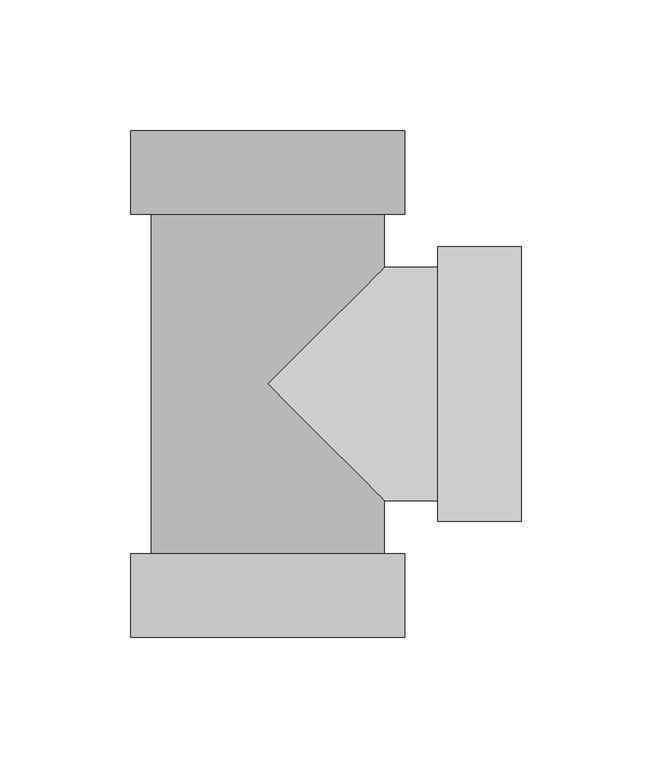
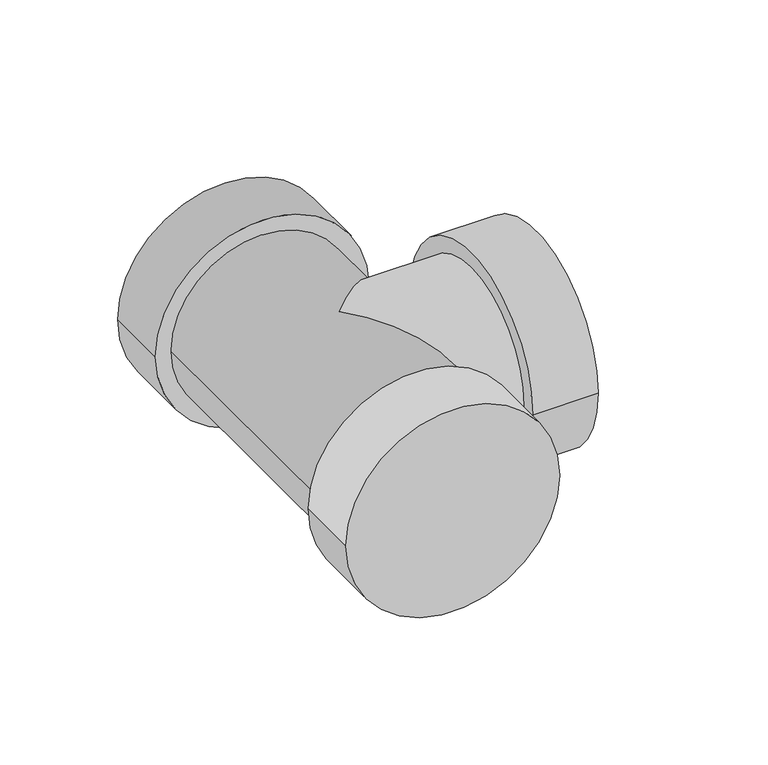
"""IFC4 building model written with IfcOpenShell, lengths in millimetres: pipe fitting geometry, 01011003 : Tés à 90º."""

from ifc_helpers import new_model, si_unit, point, frame, origin, origin_2d, place, context, project, spatial, circle_curve, ellipse_curve, trimmed, segment, composite_curve, outline, extrude, source, transform, mapped, element, save
from ifc_brep_helpers import plane_surface, cylinder_surface, advanced_brep


def pipe_fitting_6ab69682(model_context):
    return source(origin(), model_context, "Body", "SolidModel", [
        advanced_brep(
        [(-44.625, 67.0, 0.0), (44.625, 67.0, 0.0), (-44.625, -67.0, 0.0), (44.625, -67.0, 0.0), (44.625, -44.625, 0.0), (0.0, 0.0, 44.625), (44.625, 44.625, 0.0), (0.0, 0.0, -44.625), (67.0, 44.625, 0.0), (67.0, -44.625, 0.0)],
        [
            (0, 1, circle_curve(frame((0.0, 67.0, 0.0), z_axis=(0.0, 1.0, 0.0), x_axis=(1.0, 0.0, 0.0)), 44.625)),
            (1, 0, circle_curve(frame((0.0, 67.0, 0.0), z_axis=(0.0, 1.0, 0.0), x_axis=(1.0, 0.0, 0.0)), 44.625)),
            (2, 3, circle_curve(frame((0.0, -67.0, 0.0), z_axis=(0.0, -1.0, 0.0), x_axis=(1.0, 0.0, 0.0)), 44.625)),
            (3, 2, circle_curve(frame((0.0, -67.0, 0.0), z_axis=(0.0, -1.0, 0.0), x_axis=(1.0, 0.0, 0.0)), 44.625)),
            (0, 2),
            (3, 4),
            (4, 5, ellipse_curve(frame((0.0, 0.0, 0.0), z_axis=(-0.7071067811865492, -0.7071067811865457, 0.0), x_axis=(-0.7071067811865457, 0.7071067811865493, 0.0)), 63.1092802, 44.625)),
            (5, 6, ellipse_curve(frame((0.0, 0.0, 0.0), z_axis=(-0.7071067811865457, 0.7071067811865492, 0.0), x_axis=(0.7071067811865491, 0.7071067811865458, 0.0)), 63.1092802, 44.625)),
            (6, 1),
            (6, 7, ellipse_curve(frame((0.0, 0.0, 0.0), z_axis=(-0.7071067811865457, 0.7071067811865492, 0.0), x_axis=(0.7071067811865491, 0.7071067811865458, 0.0)), 63.1092802, 44.625)),
            (7, 4, ellipse_curve(frame((0.0, 0.0, 0.0), z_axis=(-0.7071067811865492, -0.7071067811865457, 0.0), x_axis=(-0.7071067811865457, 0.7071067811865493, 0.0)), 63.1092802, 44.625)),
            (8, 9, circle_curve(frame((67.0, 0.0, 0.0), z_axis=(1.0, 0.0, 0.0), x_axis=(0.0, -1.0, 0.0)), 44.625)),
            (9, 8, circle_curve(frame((67.0, 0.0, 0.0), z_axis=(1.0, 0.0, 0.0), x_axis=(0.0, -1.0, 0.0)), 44.625)),
            (8, 6),
            (4, 9),
        ],
        [
            plane_surface(frame((0.0, 67.0, 0.0), z_axis=(0.0, 1.0, 0.0), x_axis=(0.0, 0.0, 1.0))),
            plane_surface(frame((0.0, -67.0, 0.0), z_axis=(0.0, -1.0, 0.0), x_axis=(0.0, 0.0, 1.0))),
            cylinder_surface(frame((0.0, 67.0, 0.0), z_axis=(0.0, 1.0, 0.0), x_axis=(1.0, 0.0, 0.0)), 44.625),
            plane_surface(frame((67.0, 0.0, 0.0), z_axis=(1.0, 0.0, 0.0), x_axis=(0.0, 0.0, 1.0))),
            cylinder_surface(frame((67.0, 0.0, 0.0), z_axis=(1.0, 0.0, 0.0), x_axis=(0.0, -1.0, 0.0)), 44.625),
        ],
        [
            (0, [[1, 2]]),
            (1, [[3, 4]]),
            (2, [[-1, 5, -4, 6, 7, 8, 9]]),
            (2, [[-2, -9, 10, 11, -6, -3, -5]]),
            (3, [[12, 13]]),
            (4, [[-12, 14, -8, -7, 15]]),
            (4, [[-13, -15, -11, -10, -14]]),
        ],
    ),
        extrude(outline(composite_curve([segment(trimmed(circle_curve(origin_2d(), 52.5), [point((0.0, -52.5))], [point((0.0, 52.5))], False, "CARTESIAN"), True, "CONTINUOUS"), segment(trimmed(circle_curve(origin_2d(), 52.5), [point((0.0, 52.5))], [point((0.0, -52.5))], False, "CARTESIAN"), True, "CONTINUOUS")], self_intersect=False)), frame((0.0, 65.0, 0.0), z_axis=(0.0, 1.0, 0.0), x_axis=(0.0, 0.0, 1.0)), (0.0, 0.0, 1.0), 32.0),
        extrude(outline(composite_curve([segment(trimmed(circle_curve(origin_2d(), 52.5), [point((0.0, 52.5))], [point((0.0, -52.5))], False, "CARTESIAN"), True, "CONTINUOUS"), segment(trimmed(circle_curve(origin_2d(), 52.5), [point((0.0, -52.5))], [point((0.0, 52.5))], False, "CARTESIAN"), True, "CONTINUOUS")], self_intersect=False)), frame((0.0, -97.0, 0.0), z_axis=(0.0, 1.0, 0.0), x_axis=(0.0, 0.0, 1.0)), (0.0, 0.0, 1.0), 32.0),
        extrude(outline(composite_curve([segment(trimmed(circle_curve(origin_2d(), 52.5), [point((52.5, 0.0))], [point((-52.5, 0.0))], False, "CARTESIAN"), True, "CONTINUOUS"), segment(trimmed(circle_curve(origin_2d(), 52.5), [point((-52.5, 0.0))], [point((52.5, 0.0))], False, "CARTESIAN"), True, "CONTINUOUS")], self_intersect=False)), frame((65.0, 0.0, 0.0), z_axis=(1.0, 0.0, 0.0), x_axis=(0.0, 1.0, 0.0)), (0.0, 0.0, 1.0), 32.0),
    ])


if __name__ == "__main__":
    model = new_model("IFC4")
    model_context = context("Model", 3, world=origin())
    ifc_project = project(units=[si_unit("LENGTHUNIT", "METRE", prefix="MILLI")], contexts=[model_context])
    site = spatial("IfcSite", under=ifc_project)
    building = spatial("IfcBuilding", under=site)
    placement = place(None, origin())
    pipe_fitting_shape = pipe_fitting_6ab69682(model_context)
    element("IfcPipeFitting", 1, ObjectType="01011003 : Tés à 90º", at=placement, inside=building, context=model_context, shape_type="MappedRepresentation", body=[
        mapped(pipe_fitting_shape, transform((0.0, 0.0, 0.0), x_axis=(1.0, 0.0, 0.0), y_axis=(0.0, 1.0, 0.0), z_axis=(0.0, 0.0, 1.0))),
    ])
    save(model, "model.ifc")
